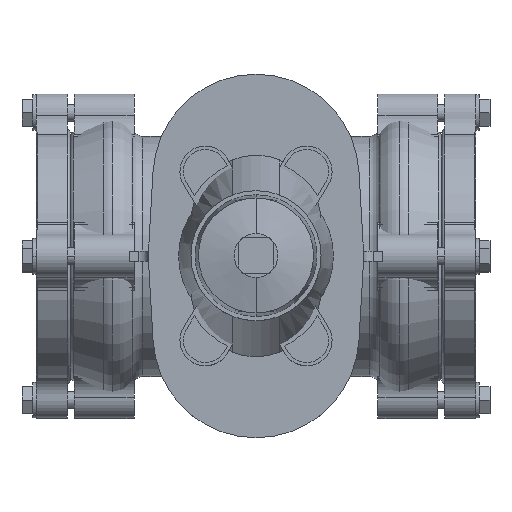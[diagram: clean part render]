
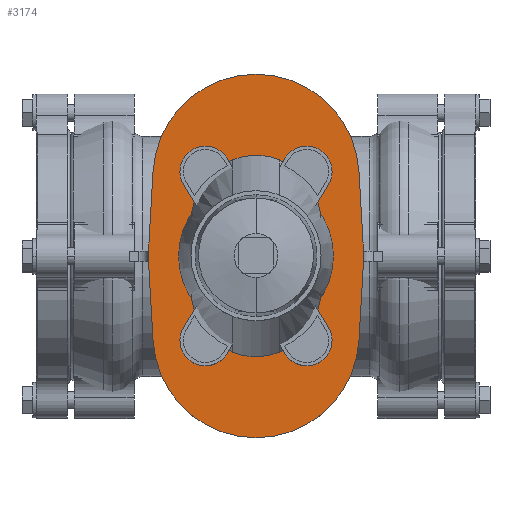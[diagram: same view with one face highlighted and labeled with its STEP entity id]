
A CAD part, top view. The second image highlights one B-rep face of the part: STEP entity #3174.
In plain terms, the highlighted planar face has unit normal (0, 0, 1).
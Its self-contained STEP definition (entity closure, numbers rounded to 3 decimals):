
#3174=ADVANCED_FACE('',(#5836),#5837,.T.);
#5836=FACE_OUTER_BOUND('',#8934,.T.);
#5837=PLANE('',#8935);
#8934=EDGE_LOOP('',(#15008,#15009,#15010,#15011,#15012,#15013,#15014,#15015,#15016,#15017));
#8935=AXIS2_PLACEMENT_3D('',#15018,#15019,#15020);
#15008=ORIENTED_EDGE('',*,*,#17018,.F.);
#15009=ORIENTED_EDGE('',*,*,#18195,.F.);
#15010=ORIENTED_EDGE('',*,*,#18056,.F.);
#15011=ORIENTED_EDGE('',*,*,#17437,.F.);
#15012=ORIENTED_EDGE('',*,*,#16900,.F.);
#15013=ORIENTED_EDGE('',*,*,#16124,.F.);
#15014=ORIENTED_EDGE('',*,*,#17894,.F.);
#15015=ORIENTED_EDGE('',*,*,#17411,.F.);
#15016=ORIENTED_EDGE('',*,*,#18196,.F.);
#15017=ORIENTED_EDGE('',*,*,#18197,.F.);
#15018=CARTESIAN_POINT('',(40.,0.006,158.0));
#15019=DIRECTION('',(0.0,0.0,1.0));
#15020=DIRECTION('',(1.0,0.0,0.0));
#16124=EDGE_CURVE('',#18979,#18980,#18981,.T.);
#16900=EDGE_CURVE('',#18980,#20238,#20239,.T.);
#17018=EDGE_CURVE('',#20413,#20414,#20415,.T.);
#17411=EDGE_CURVE('',#20965,#20967,#20968,.T.);
#17437=EDGE_CURVE('',#20238,#20998,#21002,.T.);
#17894=EDGE_CURVE('',#20967,#18979,#21564,.T.);
#18056=EDGE_CURVE('',#20998,#21750,#21751,.T.);
#18195=EDGE_CURVE('',#21750,#20413,#21900,.T.);
#18196=EDGE_CURVE('',#21901,#20965,#21902,.T.);
#18197=EDGE_CURVE('',#20414,#21901,#21903,.T.);
#18979=VERTEX_POINT('',#22858);
#18980=VERTEX_POINT('',#22859);
#18981=CIRCLE('',#22860,61.);
#20238=VERTEX_POINT('',#24483);
#20239=LINE('',#24484,#24485);
#20413=VERTEX_POINT('',#24710);
#20414=VERTEX_POINT('',#24711);
#20415=CIRCLE('',#24712,60.99);
#20965=VERTEX_POINT('',#25429);
#20967=VERTEX_POINT('',#25432);
#20968=CIRCLE('',#25433,167.639);
#20998=VERTEX_POINT('',#25471);
#21002=CIRCLE('',#25476,167.639);
#21564=LINE('',#26195,#26196);
#21750=VERTEX_POINT('',#26433);
#21751=CIRCLE('',#26434,167.639);
#21900=LINE('',#26613,#26614);
#21901=VERTEX_POINT('',#26615);
#21902=CIRCLE('',#26616,167.639);
#21903=LINE('',#26617,#26618);
#22858=CARTESIAN_POINT('',(-20.899,50.005,158.0));
#22859=CARTESIAN_POINT('',(100.899,50.005,158.0));
#22860=AXIS2_PLACEMENT_3D('',#27295,#27296,#27297);
#24483=CARTESIAN_POINT('',(103.223,9.633,158.0));
#24484=CARTESIAN_POINT('',(100.899,50.005,158.0));
#24485=VECTOR('',#28351,1.0);
#24710=CARTESIAN_POINT('',(100.888,-50.02,158.0));
#24711=CARTESIAN_POINT('',(-20.888,-50.02,158.0));
#24712=AXIS2_PLACEMENT_3D('',#28514,#28515,#28516);
#25429=CARTESIAN_POINT('',(-23.5,0.,158.0));
#25432=CARTESIAN_POINT('',(-23.223,9.633,158.0));
#25433=AXIS2_PLACEMENT_3D('',#29015,#29016,#29017);
#25471=CARTESIAN_POINT('',(103.5,0.,158.0));
#25476=AXIS2_PLACEMENT_3D('',#29045,#29046,#29047);
#26195=CARTESIAN_POINT('',(-23.223,9.633,158.0));
#26196=VECTOR('',#29571,1.0);
#26433=CARTESIAN_POINT('',(103.221,-9.674,158.0));
#26434=AXIS2_PLACEMENT_3D('',#29719,#29720,#29721);
#26613=CARTESIAN_POINT('',(103.221,-9.674,158.0));
#26614=VECTOR('',#29809,1.0);
#26615=CARTESIAN_POINT('',(-23.221,-9.675,158.0));
#26616=AXIS2_PLACEMENT_3D('',#29810,#29811,#29812);
#26617=CARTESIAN_POINT('',(-20.888,-50.02,158.0));
#26618=VECTOR('',#29813,1.0);
#27295=CARTESIAN_POINT('',(40.0,46.5,158.0));
#27296=DIRECTION('',(0.0,0.0,-1.0));
#27297=DIRECTION('',(-1.0,0.0,0.0));
#28351=DIRECTION('',(0.057,-0.998,0.0));
#28514=CARTESIAN_POINT('',(40.,-46.5,158.0));
#28515=DIRECTION('',(0.0,0.0,-1.0));
#28516=DIRECTION('',(-1.0,0.0,0.0));
#29015=CARTESIAN_POINT('',(144.139,0.,158.0));
#29016=DIRECTION('',(0.0,0.0,-1.0));
#29017=DIRECTION('',(-1.0,0.0,0.0));
#29045=CARTESIAN_POINT('',(-64.139,0.,158.0));
#29046=DIRECTION('',(0.0,0.0,-1.0));
#29047=DIRECTION('',(-1.0,0.0,0.0));
#29571=DIRECTION('',(0.057,0.998,0.0));
#29719=CARTESIAN_POINT('',(-64.139,0.,158.0));
#29720=DIRECTION('',(0.0,0.0,-1.0));
#29721=DIRECTION('',(-1.0,0.0,0.0));
#29809=DIRECTION('',(-0.058,-0.998,0.0));
#29810=CARTESIAN_POINT('',(144.139,0.,158.0));
#29811=DIRECTION('',(0.0,0.0,-1.0));
#29812=DIRECTION('',(-1.0,0.0,0.0));
#29813=DIRECTION('',(-0.058,0.998,0.0));
